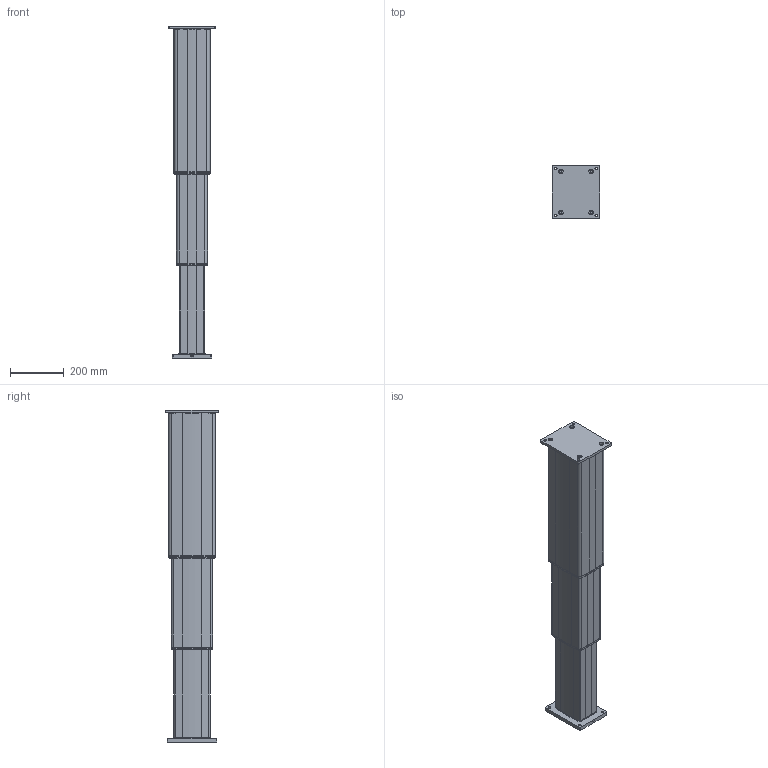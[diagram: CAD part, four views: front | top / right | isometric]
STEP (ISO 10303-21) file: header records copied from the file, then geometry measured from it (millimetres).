
FILE_DESCRIPTION((''),'2;1');
FILE_NAME('LC1-BID1-560_ASM_1_ASM','2023-05-08T09:35:22',('jak'),(''),'CREO PARAMETRIC BY PTC INC, 2022024','CREO PARAMETRIC BY PTC INC, 2022024','');
FILE_SCHEMA(('AUTOMOTIVE_DESIGN { 1 0 10303 214 1 1 1 1 }'));
Products named in the file (12): 1053W4000-F1_DESK_1; 1053W4000-F2_DESK_1; 1053W4000-F3_DESK_1; 1053W4000-BOTTOM_1; 1053W4000-MINIFIT-TOPENTRY_1_1; 1053W4000-MINIFIT-TOPENTRY_1_2; 1053W4000-MINIFIT-TOPENTRY_1_ASM; 1053W4000-1053W1008_1; 1053W4000-PLUG_1; 0801116_1; 1053W1086_1; LC1-BID1-560_ASM_1_ASM
Assembly tree (11 placements, depth 3):
  LC1-BID1-560_ASM_1_ASM
    1053W4000-F1_DESK_1
    1053W4000-F2_DESK_1
    1053W4000-F3_DESK_1
    1053W4000-BOTTOM_1
    1053W4000-MINIFIT-TOPENTRY_1_ASM
      1053W4000-MINIFIT-TOPENTRY_1_1
      1053W4000-MINIFIT-TOPENTRY_1_2
    1053W4000-1053W1008_1
    1053W4000-PLUG_1
    0801116_1
    1053W1086_1
Bounding box: 175 x 200 x 1234 mm (x, y, z)
Volume: 29454617.8 mm3; surface area: 1163387.1 mm2
Topology: 10 solids, 20 shells, 2211 faces, 5847 edges, 3660 vertices
Faces by surface type: cylinder 804, plane 394, torus 352, cone 281, bspline 220, sphere 86, extrusion 72, revolution 2
Entity records: 83444 total; most frequent: CARTESIAN_POINT 29234, ORIENTED_EDGE 11532, DIRECTION 11184, EDGE_CURVE 5766, AXIS2_PLACEMENT_3D 4629, VERTEX_POINT 3659, CIRCLE 2687, EDGE_LOOP 2347
